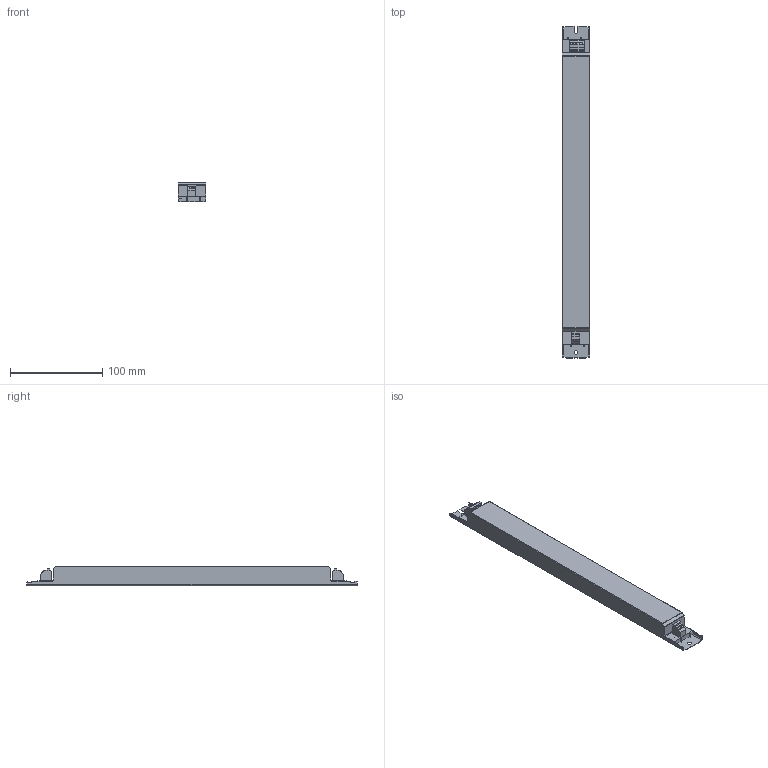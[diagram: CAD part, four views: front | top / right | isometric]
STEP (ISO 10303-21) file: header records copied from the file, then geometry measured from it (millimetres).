
FILE_DESCRIPTION((''),'2;1');
FILE_NAME('15011263_00','2017-09-18T',('elon.guo'),(''),'PRO/ENGINEER BY PARAMETRIC TECHNOLOGY CORPORATION, 2015200','PRO/ENGINEER BY PARAMETRIC TECHNOLOGY CORPORATION, 2015200','');
FILE_SCHEMA(('AUTOMOTIVE_DESIGN { 1 0 10303 214 1 1 1 1 }'));
Length unit declared in the file: millimetre
Products named in the file (1): 15011263_00
Bounding box: 30 x 360 x 21 mm (x, y, z)
Volume: 197433.4 mm3; surface area: 36607.9 mm2
Topology: 1 solids, 12 shells, 169 faces, 455 edges, 309 vertices
Faces by surface type: plane 102, cylinder 63, torus 4
Entity records: 7877 total; most frequent: CARTESIAN_POINT 1091, DIRECTION 908, ORIENTED_EDGE 890, PRESENTATION_STYLE_ASSIGNMENT 524, STYLED_ITEM 466, CURVE_STYLE 455, EDGE_CURVE 455, VERTEX_POINT 309
